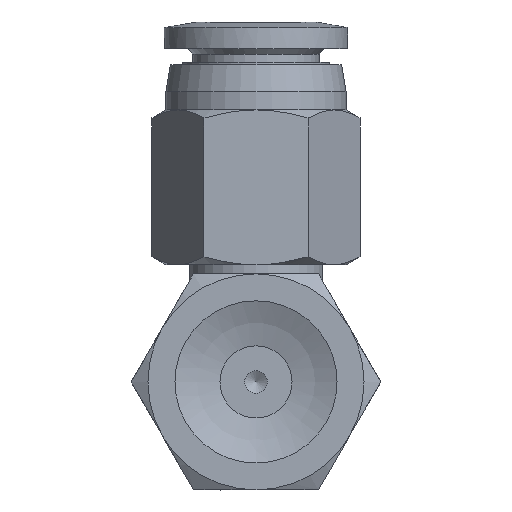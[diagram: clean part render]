
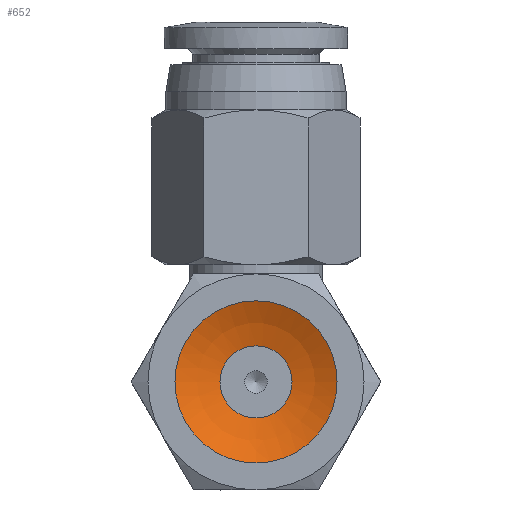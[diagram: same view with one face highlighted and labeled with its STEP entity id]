
A CAD part, front view. The second image highlights one B-rep face of the part: STEP entity #652.
In plain terms, the highlighted spherical face has radius 10.203 mm.
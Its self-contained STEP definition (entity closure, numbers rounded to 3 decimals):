
#652=ADVANCED_FACE('',(#1047,#1048),#1049,.F.);
#1047=FACE_OUTER_BOUND('',#1529,.T.);
#1048=FACE_OUTER_BOUND('',#1530,.T.);
#1049=SPHERICAL_SURFACE('',#1531,10.203);
#1529=EDGE_LOOP('',(#2815));
#1530=EDGE_LOOP('',(#2816));
#1531=AXIS2_PLACEMENT_3D('',#2817,#2818,#2819);
#2815=ORIENTED_EDGE('',*,*,#3417,.T.);
#2816=ORIENTED_EDGE('',*,*,#3416,.F.);
#2817=CARTESIAN_POINT('',(0.,-9.157,0.));
#2818=DIRECTION('',(0.0,-1.0,0.));
#2819=DIRECTION('',(1.0,0.0,0.0));
#3416=EDGE_CURVE('',#3939,#3939,#3940,.T.);
#3417=EDGE_CURVE('',#3941,#3941,#3942,.T.);
#3939=VERTEX_POINT('',#5143);
#3940=CIRCLE('',#5144,2.);
#3941=VERTEX_POINT('',#5145);
#3942=CIRCLE('',#5146,4.5);
#5143=CARTESIAN_POINT('',(0.0,0.848,-2.));
#5144=AXIS2_PLACEMENT_3D('',#5993,#5994,#5995);
#5145=CARTESIAN_POINT('',(0.0,0.,-4.5));
#5146=AXIS2_PLACEMENT_3D('',#5996,#5997,#5998);
#5993=CARTESIAN_POINT('',(0.0,0.848,0.0));
#5994=DIRECTION('',(0.0,-1.0,0.));
#5995=DIRECTION('',(0.0,0.,-1.0));
#5996=CARTESIAN_POINT('',(0.0,0.,0.0));
#5997=DIRECTION('',(0.0,-1.0,0.));
#5998=DIRECTION('',(0.0,0.,-1.0));
